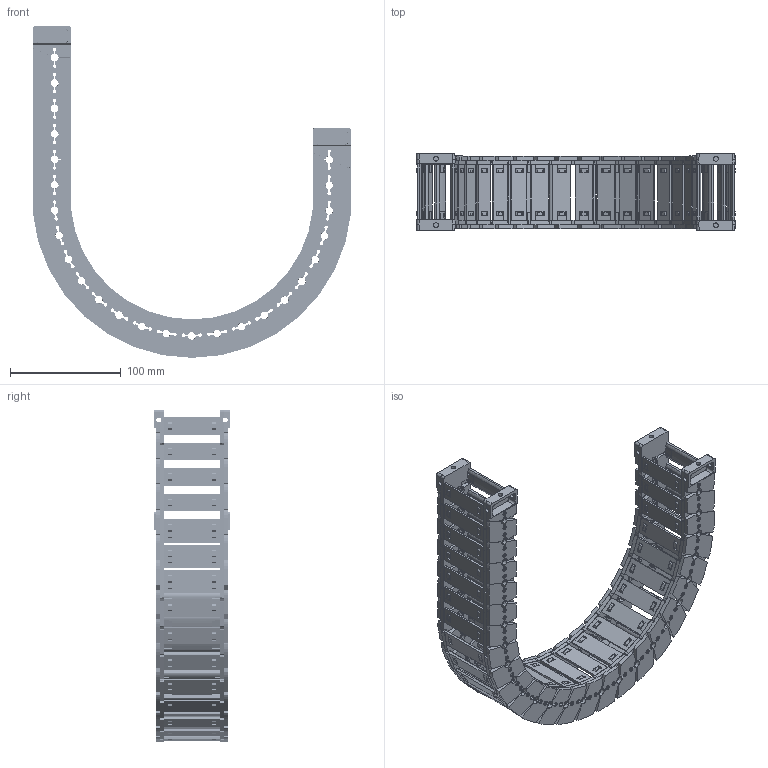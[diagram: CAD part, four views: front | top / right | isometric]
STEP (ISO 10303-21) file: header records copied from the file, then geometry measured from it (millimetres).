
FILE_DESCRIPTION((''),'2;1');
FILE_NAME('JY-28X50-R125_ASM','2026-03-25T19:57:12',('admin'),(''),'CREO PARAMETRIC BY PTC INC, 2021023','CREO PARAMETRIC BY PTC INC, 2021023','');
FILE_SCHEMA(('CONFIG_CONTROL_DESIGN'));
Length unit declared in the file: millimetre
Products named in the file (11): 28XL-L; 25-35XL-YP; 28XL-R; ASM0001_ASM; 28-LTT-A-L; 28-LTT-A-R; 28XL-LTT-A_ASM; 28-LTT-B-L; 28-LTT-B-R; 28XL-LTT-B_ASM; JY-28X50-R125_ASM
Assembly tree (38 placements, depth 3):
  JY-28X50-R125_ASM
    ASM0001_ASM  x24
      28XL-L
      25-35XL-YP
      28XL-R
    28XL-LTT-A_ASM
      28-LTT-A-L
      25-35XL-YP  x2
      28-LTT-A-R
    28XL-LTT-B_ASM
      28-LTT-B-L
      25-35XL-YP  x2
      28-LTT-B-R
Bounding box: 287.57 x 69 x 299.79 mm (x, y, z)
Volume: 395064.1 mm3; surface area: 286848.4 mm2
Topology: 104 solids, 104 shells, 8438 faces, 25084 edges, 16750 vertices
Faces by surface type: plane 5532, cone 1522, cylinder 1210, bspline 174
Entity records: 29143 total; most frequent: CARTESIAN_POINT 9496, ORIENTED_EDGE 4352, DIRECTION 3667, EDGE_CURVE 2176, VERTEX_POINT 1454, VECTOR 1365, LINE 1365, AXIS2_PLACEMENT_3D 1151
